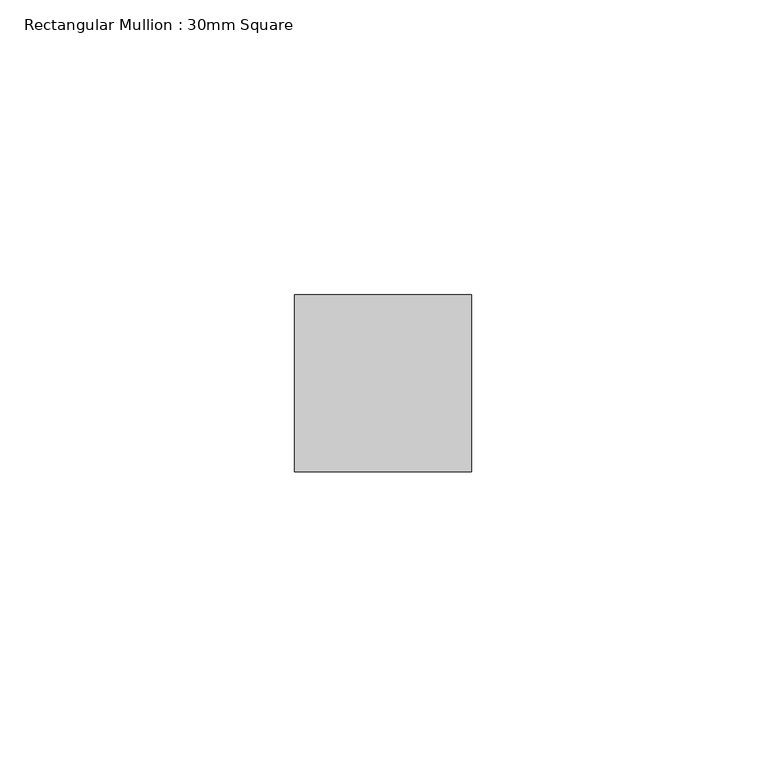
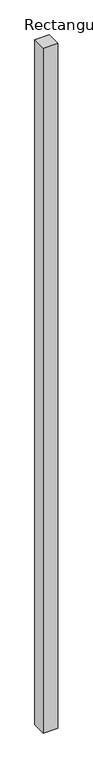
"""IFC4 building model written with IfcOpenShell, lengths in millimetres: member geometry, Rectangular Mullion : 30mm Square."""

from ifc_helpers import new_model, si_unit, frame, origin, place, context, project, spatial, polyline, outline, extrude, source, transform, mapped, element, save


def rectangular_mullion_30mm_square_0160e4a9(model_context):
    return source(origin(), model_context, "Body", "SweptSolid", [
        extrude(outline(polyline([(15.0, 15.0), (15.0, -15.0), (-15.0, -15.0), (-15.0, 15.0), (15.0, 15.0)])), frame((0.0, 0.0, -1494.0), z_axis=(0.0, 0.0, 1.0), x_axis=(1.0, 0.0, 0.0)), (0.0, 0.0, 1.0), 1494.0),
    ])


if __name__ == "__main__":
    model = new_model("IFC4")
    model_context = context("Model", 3, world=origin())
    ifc_project = project(units=[si_unit("LENGTHUNIT", "METRE", prefix="MILLI")], contexts=[model_context])
    site = spatial("IfcSite", under=ifc_project)
    building = spatial("IfcBuilding", under=site)
    placement = place(None, origin())
    rectangular_mullion_30mm_square_shape = rectangular_mullion_30mm_square_0160e4a9(model_context)
    element("IfcMember", 1, ObjectType="Rectangular Mullion : 30mm Square", at=placement, inside=building, context=model_context, shape_type="MappedRepresentation", body=[
        mapped(rectangular_mullion_30mm_square_shape, transform((0.0, 0.0, 0.0), x_axis=(1.0, 0.0, 0.0), y_axis=(0.0, 1.0, 0.0), z_axis=(0.0, 0.0, 1.0))),
    ])
    save(model, "model.ifc")
